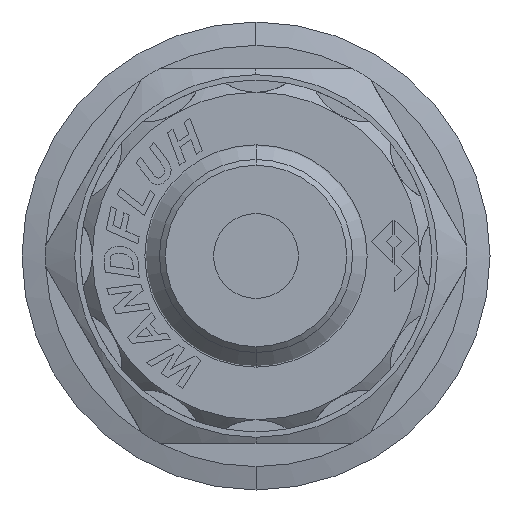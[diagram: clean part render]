
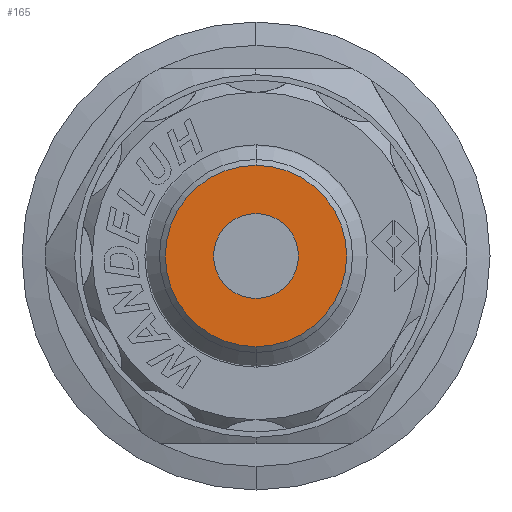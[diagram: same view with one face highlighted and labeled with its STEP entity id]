
A CAD part, left-side view. The second image highlights one B-rep face of the part: STEP entity #165.
In plain terms, the highlighted planar face has unit normal (-1, 0, 0).
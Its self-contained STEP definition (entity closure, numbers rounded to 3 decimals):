
#165 = ADVANCED_FACE ( 'NONE', ( #14564, #14426 ), #7378, .T. ) ;
#934 = VERTEX_POINT ( 'NONE', #11891 ) ;
#955 = VERTEX_POINT ( 'NONE', #11907 ) ;
#1031 = VERTEX_POINT ( 'NONE', #11978 ) ;
#1096 = VERTEX_POINT ( 'NONE', #12040 ) ;
#1165 = ORIENTED_EDGE ( 'NONE', *, *, #5827, .F. ) ;
#1166 = ORIENTED_EDGE ( 'NONE', *, *, #5665, .T. ) ;
#1201 = ORIENTED_EDGE ( 'NONE', *, *, #5948, .T. ) ;
#1206 = ORIENTED_EDGE ( 'NONE', *, *, #5704, .F. ) ;
#1280 = EDGE_LOOP ( 'NONE', ( #1201, #1166 ) ) ;
#4407 = EDGE_LOOP ( 'NONE', ( #1165, #1206 ) ) ;
#5665 = EDGE_CURVE ( 'NONE', #1096, #934, #12692, .T. ) ;
#5704 = EDGE_CURVE ( 'NONE', #1031, #955, #12751, .T. ) ;
#5827 = EDGE_CURVE ( 'NONE', #955, #1031, #12923, .T. ) ;
#5948 = EDGE_CURVE ( 'NONE', #934, #1096, #13088, .T. ) ;
#7378 = PLANE ( 'NONE',  #21642 ) ;
#7385 = CARTESIAN_POINT ( 'NONE',  ( -70.9, -3.625, 0. ) ) ;
#7386 = DIRECTION ( 'NONE',  ( -1., 0., 0. ) ) ;
#7387 = DIRECTION ( 'NONE',  ( 0., 0., -1. ) ) ;
#11891 = CARTESIAN_POINT ( 'NONE',  ( -70.9, 0., 7.75 ) ) ;
#11907 = CARTESIAN_POINT ( 'NONE',  ( -70.9, 0., -3.625 ) ) ;
#11978 = CARTESIAN_POINT ( 'NONE',  ( -70.9, 0., 3.625 ) ) ;
#12040 = CARTESIAN_POINT ( 'NONE',  ( -70.9, 0., -7.75 ) ) ;
#12692 = CIRCLE ( 'NONE', #20068, 7.75 ) ;
#12751 = CIRCLE ( 'NONE', #20083, 3.625 ) ;
#12923 = CIRCLE ( 'NONE', #20147, 3.625 ) ;
#13088 = CIRCLE ( 'NONE', #20220, 7.75 ) ;
#14147 = CARTESIAN_POINT ( 'NONE',  ( -70.9, 0., 0. ) ) ;
#14148 = DIRECTION ( 'NONE',  ( -1., 0., 0. ) ) ;
#14149 = DIRECTION ( 'NONE',  ( 0., 0., -1. ) ) ;
#14296 = CARTESIAN_POINT ( 'NONE',  ( -70.9, 0., 0. ) ) ;
#14297 = DIRECTION ( 'NONE',  ( -1., 0., 0. ) ) ;
#14298 = DIRECTION ( 'NONE',  ( 0., 0., -1. ) ) ;
#14426 = FACE_BOUND ( 'NONE', #4407, .T. ) ;
#14564 = FACE_OUTER_BOUND ( 'NONE', #1280, .T. ) ;
#14886 = CARTESIAN_POINT ( 'NONE',  ( -70.9, 0., 0. ) ) ;
#14888 = DIRECTION ( 'NONE',  ( -1., 0., 0. ) ) ;
#14889 = DIRECTION ( 'NONE',  ( 0., 0., -1. ) ) ;
#15418 = CARTESIAN_POINT ( 'NONE',  ( -70.9, 0., 0. ) ) ;
#15419 = DIRECTION ( 'NONE',  ( -1., 0., 0. ) ) ;
#15420 = DIRECTION ( 'NONE',  ( 0., 0., -1. ) ) ;
#20068 = AXIS2_PLACEMENT_3D ( 'NONE', #14147, #14148, #14149 ) ;
#20083 = AXIS2_PLACEMENT_3D ( 'NONE', #14296, #14297, #14298 ) ;
#20147 = AXIS2_PLACEMENT_3D ( 'NONE', #14886, #14888, #14889 ) ;
#20220 = AXIS2_PLACEMENT_3D ( 'NONE', #15418, #15419, #15420 ) ;
#21642 = AXIS2_PLACEMENT_3D ( 'NONE', #7385, #7386, #7387 ) ;
